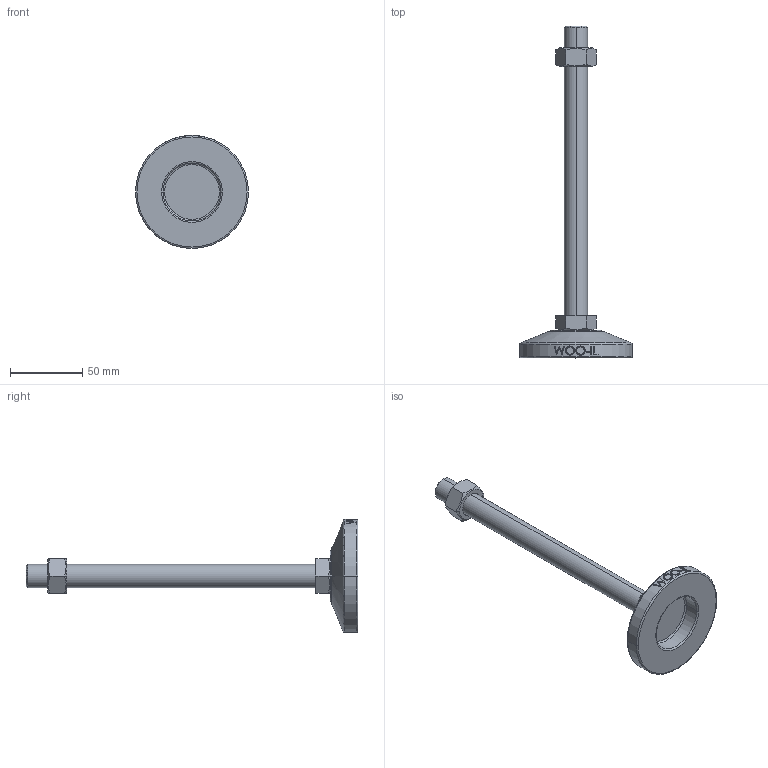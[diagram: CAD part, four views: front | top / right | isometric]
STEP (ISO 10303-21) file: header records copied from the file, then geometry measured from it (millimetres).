
FILE_DESCRIPTION (( 'STEP AP214' ), '1' );
FILE_NAME ('MFT78-M16-200.step', '2021-03-29T04:43:44', ( '' ), ( '' ), 'SwSTEP 2.0', 'SolidWorks 2019', '' );
FILE_SCHEMA (( 'AUTOMOTIVE_DESIGN' ));
Length unit declared in the file: millimetre
Products named in the file (2): MFT78-M16-200
Bounding box: 78 x 229 x 78 mm (x, y, z)
Volume: 105568 mm3; surface area: 27633.6 mm2
Topology: 3 solids, 3 shells, 106 faces, 243 edges, 154 vertices
Faces by surface type: plane 48, cylinder 18, bspline 16, cone 14, torus 10
Entity records: 4506 total; most frequent: CARTESIAN_POINT 2163, ORIENTED_EDGE 486, DIRECTION 439, EDGE_CURVE 243, AXIS2_PLACEMENT_3D 170, VERTEX_POINT 154, EDGE_LOOP 119, ADVANCED_FACE 106
